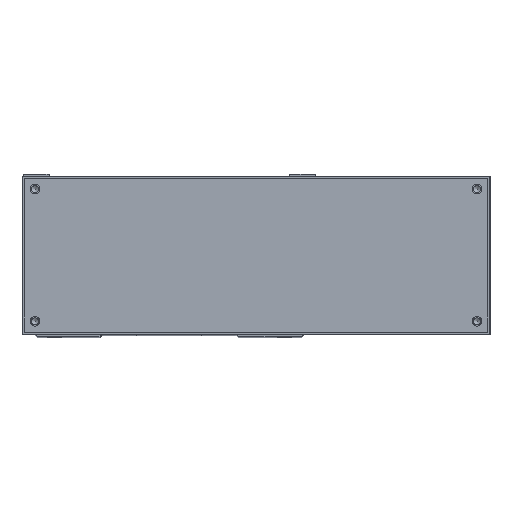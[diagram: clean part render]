
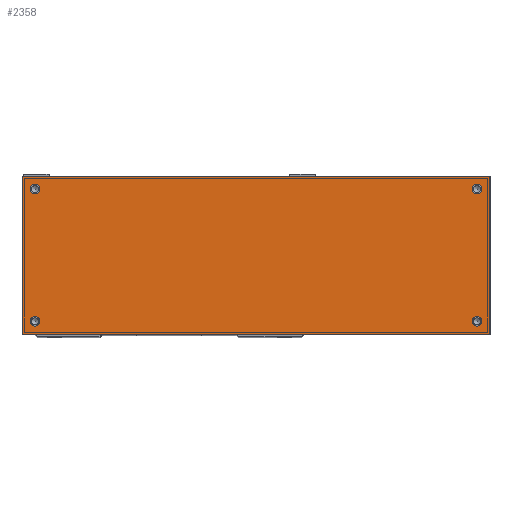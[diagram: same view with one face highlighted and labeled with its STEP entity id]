
A CAD part, top view. The second image highlights one B-rep face of the part: STEP entity #2358.
In plain terms, the highlighted planar face has unit normal (0, 0, 1).
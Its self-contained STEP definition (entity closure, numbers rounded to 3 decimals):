
#283=CIRCLE('',#14908,2.25);
#284=CIRCLE('',#14909,2.25);
#285=CIRCLE('',#14910,2.25);
#286=CIRCLE('',#14911,2.25);
#1441=FACE_BOUND('',#4165,.T.);
#1442=FACE_BOUND('',#4166,.T.);
#1443=FACE_BOUND('',#4167,.T.);
#1444=FACE_BOUND('',#4168,.T.);
#1445=FACE_BOUND('',#4169,.T.);
#2358=ADVANCED_FACE('8',(#1441,#1442,#1443,#1444,#1445),#3170,.F.);
#3170=PLANE('',#14912);
#4165=EDGE_LOOP('',(#5676));
#4166=EDGE_LOOP('',(#5677));
#4167=EDGE_LOOP('',(#5678));
#4168=EDGE_LOOP('',(#5679));
#4169=EDGE_LOOP('',(#5680,#5681,#5682,#5683));
#5676=ORIENTED_EDGE('',*,*,#10907,.F.);
#5677=ORIENTED_EDGE('',*,*,#10908,.F.);
#5678=ORIENTED_EDGE('',*,*,#10909,.F.);
#5679=ORIENTED_EDGE('',*,*,#10910,.F.);
#5680=ORIENTED_EDGE('',*,*,#10911,.F.);
#5681=ORIENTED_EDGE('',*,*,#10912,.F.);
#5682=ORIENTED_EDGE('',*,*,#10913,.F.);
#5683=ORIENTED_EDGE('',*,*,#10914,.F.);
#9426=VERTEX_POINT('',#21618);
#9427=VERTEX_POINT('',#21620);
#9428=VERTEX_POINT('',#21622);
#9429=VERTEX_POINT('',#21624);
#9430=VERTEX_POINT('',#21626);
#9431=VERTEX_POINT('',#21627);
#9432=VERTEX_POINT('',#21629);
#9433=VERTEX_POINT('',#21631);
#10907=EDGE_CURVE('',#9426,#9426,#283,.T.);
#10908=EDGE_CURVE('',#9427,#9427,#284,.T.);
#10909=EDGE_CURVE('',#9428,#9428,#285,.T.);
#10910=EDGE_CURVE('',#9429,#9429,#286,.T.);
#10911=EDGE_CURVE('',#9430,#9431,#12803,.T.);
#10912=EDGE_CURVE('',#9432,#9430,#12804,.T.);
#10913=EDGE_CURVE('',#9433,#9432,#12805,.T.);
#10914=EDGE_CURVE('',#9431,#9433,#12806,.T.);
#12803=LINE('',#21625,#13836);
#12804=LINE('',#21628,#13837);
#12805=LINE('',#21630,#13838);
#12806=LINE('',#21632,#13839);
#13836=VECTOR('',#16814,1.);
#13837=VECTOR('',#16815,1.);
#13838=VECTOR('',#16816,1.);
#13839=VECTOR('',#16817,1.);
#14908=AXIS2_PLACEMENT_3D('',#21617,#16806,#16807);
#14909=AXIS2_PLACEMENT_3D('',#21619,#16808,#16809);
#14910=AXIS2_PLACEMENT_3D('',#21621,#16810,#16811);
#14911=AXIS2_PLACEMENT_3D('',#21623,#16812,#16813);
#14912=AXIS2_PLACEMENT_3D('',#21633,#16818,#16819);
#16806=DIRECTION('',(0.,0.,1.));
#16807=DIRECTION('',(-1.,0.,0.));
#16808=DIRECTION('',(0.,0.,1.));
#16809=DIRECTION('',(1.,0.,0.));
#16810=DIRECTION('',(0.,0.,1.));
#16811=DIRECTION('',(-1.,0.,0.));
#16812=DIRECTION('',(0.,0.,1.));
#16813=DIRECTION('',(1.,0.,0.));
#16814=DIRECTION('',(0.,-1.,0.));
#16815=DIRECTION('',(1.,0.,0.));
#16816=DIRECTION('',(0.,1.,0.));
#16817=DIRECTION('',(-1.,0.,0.));
#16818=DIRECTION('',(0.,0.,-1.));
#16819=DIRECTION('',(1.,0.,0.));
#21617=CARTESIAN_POINT('',(-62.,6.,193.));
#21618=CARTESIAN_POINT('',(-64.25,6.,193.));
#21619=CARTESIAN_POINT('',(142.,6.,193.));
#21620=CARTESIAN_POINT('',(144.25,6.,193.));
#21621=CARTESIAN_POINT('',(142.,67.,193.));
#21622=CARTESIAN_POINT('',(139.75,67.,193.));
#21623=CARTESIAN_POINT('',(-62.,67.,193.));
#21624=CARTESIAN_POINT('',(-59.75,67.,193.));
#21625=CARTESIAN_POINT('',(148.,73.,193.));
#21626=CARTESIAN_POINT('',(148.,73.,193.));
#21627=CARTESIAN_POINT('',(148.,0.,193.));
#21628=CARTESIAN_POINT('',(148.,73.,193.));
#21629=CARTESIAN_POINT('',(-68.,73.,193.));
#21630=CARTESIAN_POINT('',(-68.,73.,193.));
#21631=CARTESIAN_POINT('',(-68.,0.,193.));
#21632=CARTESIAN_POINT('',(148.,0.,193.));
#21633=CARTESIAN_POINT('',(40.,36.5,193.));
